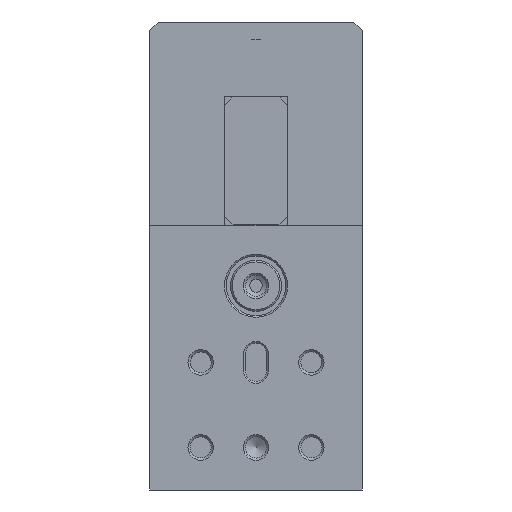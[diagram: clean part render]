
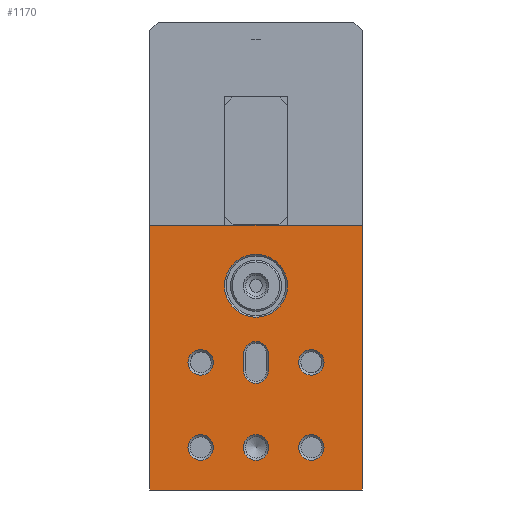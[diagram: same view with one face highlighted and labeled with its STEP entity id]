
A CAD part, front view. The second image highlights one B-rep face of the part: STEP entity #1170.
In plain terms, the highlighted planar face has unit normal (0, -1, 0).
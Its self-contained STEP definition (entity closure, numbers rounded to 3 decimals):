
#1025=CARTESIAN_POINT('',(-8.8,0.,24.));
#1026=VERTEX_POINT('',#1025);
#1027=CARTESIAN_POINT('',(-12.5,0.,24.));
#1028=DIRECTION('',(0.0,-1.0,0.0));
#1029=DIRECTION('',(-1.0,0.0,0.0));
#1030=AXIS2_PLACEMENT_3D('',#1027,#1028,#1029);
#1031=CIRCLE('',#1030,3.7);
#1032=EDGE_CURVE('',#1026,#1026,#1031,.T.);
#1037=CARTESIAN_POINT('',(0.0,0.0,0.0));
#1038=DIRECTION('',(0.0,-1.0,0.0));
#1039=DIRECTION('',(0.0,0.0,-1.0));
#1040=AXIS2_PLACEMENT_3D('',#1037,#1038,#1039);
#1041=PLANE('',#1040);
#1042=CARTESIAN_POINT('',(0.0,0.0,31.1));
#1043=VERTEX_POINT('',#1042);
#1044=CARTESIAN_POINT('',(-25.0,0.,31.1));
#1045=VERTEX_POINT('',#1044);
#1046=CARTESIAN_POINT('',(0.0,0.0,31.1));
#1047=DIRECTION('',(-1.0,0.0,0.0));
#1048=VECTOR('',#1047,25.0);
#1049=LINE('',#1046,#1048);
#1050=EDGE_CURVE('',#1043,#1045,#1049,.T.);
#1051=ORIENTED_EDGE('',*,*,#1050,.T.);
#1052=CARTESIAN_POINT('',(-25.0,0.,0.0));
#1053=VERTEX_POINT('',#1052);
#1054=CARTESIAN_POINT('',(-25.0,0.,0.0));
#1055=DIRECTION('',(0.0,0.0,1.0));
#1056=VECTOR('',#1055,31.1);
#1057=LINE('',#1054,#1056);
#1058=EDGE_CURVE('',#1053,#1045,#1057,.T.);
#1059=ORIENTED_EDGE('',*,*,#1058,.F.);
#1060=CARTESIAN_POINT('',(0.0,0.0,0.0));
#1061=VERTEX_POINT('',#1060);
#1062=CARTESIAN_POINT('',(0.0,0.0,0.0));
#1063=DIRECTION('',(-1.0,0.0,0.0));
#1064=VECTOR('',#1063,25.0);
#1065=LINE('',#1062,#1064);
#1066=EDGE_CURVE('',#1061,#1053,#1065,.T.);
#1067=ORIENTED_EDGE('',*,*,#1066,.F.);
#1068=CARTESIAN_POINT('',(0.0,0.0,0.0));
#1069=DIRECTION('',(0.0,0.0,1.0));
#1070=VECTOR('',#1069,31.1);
#1071=LINE('',#1068,#1070);
#1072=EDGE_CURVE('',#1061,#1043,#1071,.T.);
#1073=ORIENTED_EDGE('',*,*,#1072,.T.);
#1074=EDGE_LOOP('',(#1051,#1059,#1067,#1073));
#1075=FACE_OUTER_BOUND('',#1074,.T.);
#1076=CARTESIAN_POINT('',(-11.05,0.,14.0));
#1077=VERTEX_POINT('',#1076);
#1078=CARTESIAN_POINT('',(-11.05,0.,16.));
#1079=VERTEX_POINT('',#1078);
#1080=CARTESIAN_POINT('',(-11.05,0.,14.0));
#1081=DIRECTION('',(0.0,0.0,1.0));
#1082=VECTOR('',#1081,2.);
#1083=LINE('',#1080,#1082);
#1084=EDGE_CURVE('',#1077,#1079,#1083,.T.);
#1085=ORIENTED_EDGE('',*,*,#1084,.F.);
#1086=CARTESIAN_POINT('',(-13.95,0.,14.0));
#1087=VERTEX_POINT('',#1086);
#1088=CARTESIAN_POINT('',(-12.5,0.,14.0));
#1089=DIRECTION('',(0.0,-1.0,0.0));
#1090=DIRECTION('',(-1.0,0.0,0.0));
#1091=AXIS2_PLACEMENT_3D('',#1088,#1089,#1090);
#1092=CIRCLE('',#1091,1.45);
#1093=EDGE_CURVE('',#1087,#1077,#1092,.T.);
#1094=ORIENTED_EDGE('',*,*,#1093,.F.);
#1095=CARTESIAN_POINT('',(-13.95,0.,16.));
#1096=VERTEX_POINT('',#1095);
#1097=CARTESIAN_POINT('',(-13.95,0.,16.));
#1098=DIRECTION('',(0.0,0.0,-1.0));
#1099=VECTOR('',#1098,2.);
#1100=LINE('',#1097,#1099);
#1101=EDGE_CURVE('',#1096,#1087,#1100,.T.);
#1102=ORIENTED_EDGE('',*,*,#1101,.F.);
#1103=CARTESIAN_POINT('',(-12.5,0.,16.));
#1104=DIRECTION('',(0.0,-1.0,0.0));
#1105=DIRECTION('',(1.0,0.0,0.0));
#1106=AXIS2_PLACEMENT_3D('',#1103,#1104,#1105);
#1107=CIRCLE('',#1106,1.45);
#1108=EDGE_CURVE('',#1079,#1096,#1107,.T.);
#1109=ORIENTED_EDGE('',*,*,#1108,.F.);
#1110=EDGE_LOOP('',(#1085,#1094,#1102,#1109));
#1111=FACE_BOUND('',#1110,.T.);
#1112=CARTESIAN_POINT('',(-11.0,0.,5.0));
#1113=VERTEX_POINT('',#1112);
#1114=CARTESIAN_POINT('',(-12.5,0.,5.0));
#1115=DIRECTION('',(0.0,1.0,0.0));
#1116=DIRECTION('',(1.0,0.0,0.0));
#1117=AXIS2_PLACEMENT_3D('',#1114,#1115,#1116);
#1118=CIRCLE('',#1117,1.5);
#1119=EDGE_CURVE('',#1113,#1113,#1118,.T.);
#1120=ORIENTED_EDGE('',*,*,#1119,.T.);
#1121=EDGE_LOOP('',(#1120));
#1122=FACE_BOUND('',#1121,.T.);
#1123=CARTESIAN_POINT('',(-4.5,0.,15.0));
#1124=VERTEX_POINT('',#1123);
#1125=CARTESIAN_POINT('',(-6.,0.,15.0));
#1126=DIRECTION('',(0.0,1.0,0.0));
#1127=DIRECTION('',(1.0,0.0,0.0));
#1128=AXIS2_PLACEMENT_3D('',#1125,#1126,#1127);
#1129=CIRCLE('',#1128,1.5);
#1130=EDGE_CURVE('',#1124,#1124,#1129,.T.);
#1131=ORIENTED_EDGE('',*,*,#1130,.T.);
#1132=EDGE_LOOP('',(#1131));
#1133=FACE_BOUND('',#1132,.T.);
#1134=CARTESIAN_POINT('',(-17.5,0.,15.0));
#1135=VERTEX_POINT('',#1134);
#1136=CARTESIAN_POINT('',(-19.0,0.,15.0));
#1137=DIRECTION('',(0.0,1.0,0.0));
#1138=DIRECTION('',(1.0,0.0,0.0));
#1139=AXIS2_PLACEMENT_3D('',#1136,#1137,#1138);
#1140=CIRCLE('',#1139,1.5);
#1141=EDGE_CURVE('',#1135,#1135,#1140,.T.);
#1142=ORIENTED_EDGE('',*,*,#1141,.T.);
#1143=EDGE_LOOP('',(#1142));
#1144=FACE_BOUND('',#1143,.T.);
#1145=CARTESIAN_POINT('',(-4.5,0.,5.0));
#1146=VERTEX_POINT('',#1145);
#1147=CARTESIAN_POINT('',(-6.,0.,5.0));
#1148=DIRECTION('',(0.0,1.0,0.0));
#1149=DIRECTION('',(1.0,0.0,0.0));
#1150=AXIS2_PLACEMENT_3D('',#1147,#1148,#1149);
#1151=CIRCLE('',#1150,1.5);
#1152=EDGE_CURVE('',#1146,#1146,#1151,.T.);
#1153=ORIENTED_EDGE('',*,*,#1152,.T.);
#1154=EDGE_LOOP('',(#1153));
#1155=FACE_BOUND('',#1154,.T.);
#1156=CARTESIAN_POINT('',(-17.5,0.,5.0));
#1157=VERTEX_POINT('',#1156);
#1158=CARTESIAN_POINT('',(-19.0,0.,5.0));
#1159=DIRECTION('',(0.0,1.0,0.0));
#1160=DIRECTION('',(1.0,0.0,0.0));
#1161=AXIS2_PLACEMENT_3D('',#1158,#1159,#1160);
#1162=CIRCLE('',#1161,1.5);
#1163=EDGE_CURVE('',#1157,#1157,#1162,.T.);
#1164=ORIENTED_EDGE('',*,*,#1163,.T.);
#1165=EDGE_LOOP('',(#1164));
#1166=FACE_BOUND('',#1165,.T.);
#1167=ORIENTED_EDGE('',*,*,#1032,.F.);
#1168=EDGE_LOOP('',(#1167));
#1169=FACE_BOUND('',#1168,.T.);
#1170=ADVANCED_FACE('',(#1075,#1111,#1122,#1133,#1144,#1155,#1166,#1169),#1041,.T.);
